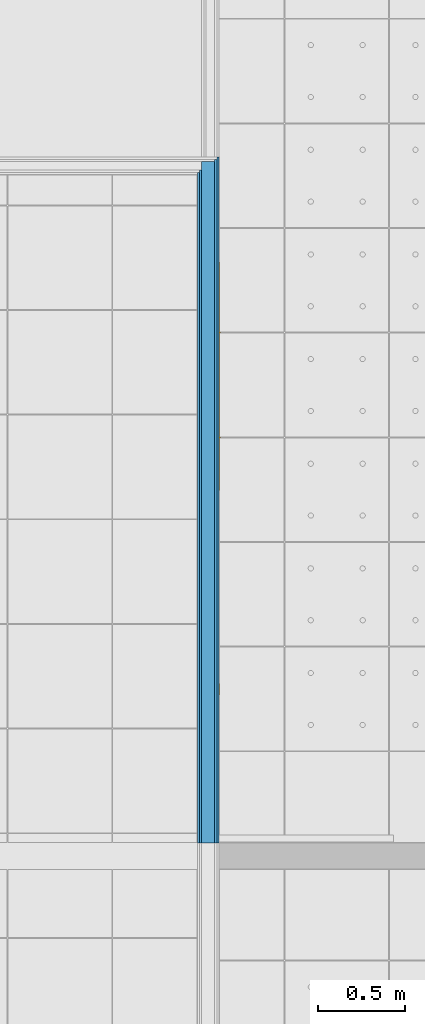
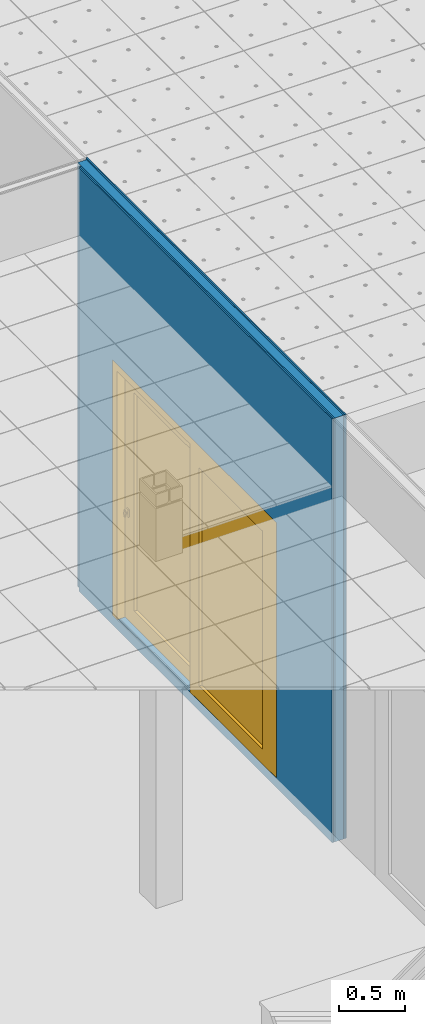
# One storey, part 18 of 321: 5 building element parts, 1 door, 1 opening, 1 element without a shape of its own.
"""IFC2X3 building model written with IfcOpenShell, lengths in millimetres."""

import ifcopenshell
import ifcopenshell.guid

model = None  # the IFC model being written
_history = None  # IfcOwnerHistory: only IFC2X3 demands one
_inside = {}  # id of a spatial element -> (the spatial element, [elements in it])
_under = {}  # id of a project, library or spatial element -> (it, [spatial elements below it])
_declared = {}  # id of a project -> (the project, [libraries it declares])
_typed = {}  # id of a type object -> (the type object, [elements of that type])
_made_of = {}  # id of a material, layer set ... -> (it, [elements and type objects made of it])


def new_model(schema):
    """Start an empty IFC model of exactly this schema.

    Asked for "IFC4X3", IfcOpenShell would pick the latest addendum, in which some entities
    have other attributes; the version numbers below select the first issue.
    IFC2X3 requires an IfcOwnerHistory on every rooted entity: one is made here for all.
    """
    global model, _history
    if schema == "IFC4X3":
        model = ifcopenshell.file(schema_version=(4, 3, 0, 0))
    else:
        model = ifcopenshell.file(schema=schema)
    _inside.clear()
    _under.clear()
    _declared.clear()
    _typed.clear()
    _made_of.clear()
    _history = None
    if model.schema == "IFC2X3":
        org = make("IfcOrganization", Name="unknown")
        user = make(
            "IfcPersonAndOrganization",
            ThePerson=make("IfcPerson", FamilyName="unknown"),
            TheOrganization=org,
        )
        app = make(
            "IfcApplication",
            ApplicationDeveloper=org,
            Version="unknown",
            ApplicationFullName="unknown",
            ApplicationIdentifier="unknown",
        )
        _history = make(
            "IfcOwnerHistory",
            OwningUser=user,
            OwningApplication=app,
            ChangeAction="ADDED",
            CreationDate=0,
        )
    return model


def make(cls, **values):
    """One entity of the class cls with the attributes given. An attribute that is None is left unset."""
    return model.create_entity(
        cls, **{name: value for name, value in values.items() if value is not None}
    )


def entity(cls, *values):
    """Any entity or typed value of the class cls, its attributes in the order of the schema. None: left unset."""
    e = model.create_entity(cls)
    for i, value in enumerate(values):
        if value is not None:
            e[i] = value
    return e


def rooted(cls, **values):
    """An entity with a GlobalId (a new one), such as an element, a storey or a relation."""
    return make(cls, GlobalId=ifcopenshell.guid.new(), OwnerHistory=_history, **values)


def si_unit(unit_type, name, prefix=None):
    """IfcSIUnit, for example si_unit("LENGTHUNIT", "METRE", prefix="MILLI")."""
    return make("IfcSIUnit", UnitType=unit_type, Prefix=prefix, Name=name)


def converted_unit(unit_type, name, factor, base, dimensions=None, offset=None):
    """IfcConversionBasedUnit, such as the inch: factor (a typed value) times the base unit."""
    return make(
        "IfcConversionBasedUnit"
        if offset is None
        else "IfcConversionBasedUnitWithOffset",
        ConversionOffset=offset,
        Dimensions=None
        if dimensions is None
        else entity("IfcDimensionalExponents", *dimensions),
        UnitType=unit_type,
        Name=name,
        ConversionFactor=make(
            "IfcMeasureWithUnit", ValueComponent=factor, UnitComponent=base
        ),
    )


def derived_unit(unit_type, elements):
    """IfcDerivedUnit: a product of units, each with its exponent."""
    return make(
        "IfcDerivedUnit",
        Elements=[
            make("IfcDerivedUnitElement", Unit=unit, Exponent=power)
            for unit, power in elements
        ],
        UnitType=unit_type,
    )


def money_unit(currency):
    """IfcMonetaryUnit."""
    return make("IfcMonetaryUnit", Currency=currency)


def assignment(units):
    """IfcUnitAssignment: the units of a project."""
    return None if units is None else make("IfcUnitAssignment", Units=units)


def point(xyz):
    """IfcCartesianPoint."""
    return None if xyz is None else make("IfcCartesianPoint", Coordinates=xyz)


def direction(xyz):
    """IfcDirection."""
    return None if xyz is None else make("IfcDirection", DirectionRatios=xyz)


def frame(location, z_axis=None, x_axis=None):
    """IfcAxis2Placement3D, a coordinate frame: its origin and axes. An axis left out is left unset."""
    return make(
        "IfcAxis2Placement3D",
        Location=point(location),
        Axis=direction(z_axis),
        RefDirection=direction(x_axis),
    )


def origin_with_axes():
    """The frame at (0, 0, 0) with the z axis (0, 0, 1) and the x axis (1, 0, 0) written out."""
    return frame((0.0, 0.0, 0.0), z_axis=(0.0, 0.0, 1.0), x_axis=(1.0, 0.0, 0.0))


def place(relative_to, where):
    """IfcLocalPlacement: puts the frame where relative to a parent placement (None: the world)."""
    return make(
        "IfcLocalPlacement", PlacementRelTo=relative_to, RelativePlacement=where
    )


def context(
    kind, dimensions, precision=None, world=None, true_north=None, identifier=None
):
    """IfcGeometricRepresentationContext, for example the 3D "Model" context."""
    return make(
        "IfcGeometricRepresentationContext",
        ContextIdentifier=identifier,
        ContextType=kind,
        CoordinateSpaceDimension=dimensions,
        Precision=precision,
        WorldCoordinateSystem=world,
        TrueNorth=true_north,
    )


def subcontext(parent, identifier, kind, view, scale=None):
    """IfcGeometricRepresentationSubContext, for example "Body" below "Model"."""
    return make(
        "IfcGeometricRepresentationSubContext",
        ContextIdentifier=identifier,
        ContextType=kind,
        ParentContext=parent,
        TargetScale=scale,
        TargetView=view,
    )


def project(units=None, contexts=None):
    """IfcProject with its units and contexts."""
    return rooted(
        "IfcProject",
        Name="project",
        RepresentationContexts=contexts,
        UnitsInContext=assignment(units),
    )


def spatial(cls, under=None, at=None, **own):
    """A site, building, storey or space (cls), placed at a placement, below another one or the project."""
    s = rooted(cls, ObjectPlacement=at, **own)
    if under is not None:
        _under.setdefault(under.id(), (under, []))[1].append(s)
    return s


def faces_of(points, faces, orient=None, outer=None):
    """IfcFace entities. A face is a list of loops; a loop is a list of indices into points, from 0.

    orient and outer hold one flag for each loop. By default every Orientation is true, the
    first loop of a face is its IfcFaceOuterBound and the others are IfcFaceBound.
    """
    made = []
    for i, loops in enumerate(faces):
        bounds = []
        for j, loop in enumerate(loops):
            is_outer = j == 0 if outer is None else outer[i][j]
            bounds.append(
                make(
                    "IfcFaceOuterBound" if is_outer else "IfcFaceBound",
                    Bound=make("IfcPolyLoop", Polygon=[points[k] for k in loop]),
                    Orientation=True if orient is None else orient[i][j],
                )
            )
        made.append(make("IfcFace", Bounds=bounds))
    return made


def open_shell(faces, orient=None, outer=None):
    """The faces of one IfcOpenShell. surface_model builds it on its shared points."""
    return ("IfcOpenShell", faces, orient, outer)


def faceted_brep(points, faces, orient=None, outer=None, voids=None):
    """IfcFacetedBrep: a solid bounded by flat faces; with voids (closed shells), ...WithVoids."""
    shared = [point(p) for p in points]
    hull = make("IfcClosedShell", CfsFaces=faces_of(shared, faces, orient, outer))
    if voids is None:
        return make("IfcFacetedBrep", Outer=hull)
    return make(
        "IfcFacetedBrepWithVoids",
        Outer=hull,
        Voids=[
            make(cls, CfsFaces=faces_of(shared, fs, o, b)) for cls, fs, o, b in voids
        ],
    )


def surface_model(cls, points, shells):
    """IfcFaceBasedSurfaceModel or IfcShellBasedSurfaceModel (cls): surfaces that need not close."""
    shared = [point(p) for p in points]
    made = [make(c, CfsFaces=faces_of(shared, fs, o, b)) for c, fs, o, b in shells]
    if cls == "IfcFaceBasedSurfaceModel":
        return make(cls, FbsmFaces=made)
    return make(cls, SbsmBoundary=made)


def shape(context_of_items, identifier, shape_type, items):
    """IfcShapeRepresentation: the items that make up one representation, for example the "Body"."""
    return make(
        "IfcShapeRepresentation",
        ContextOfItems=context_of_items,
        RepresentationIdentifier=identifier,
        RepresentationType=shape_type,
        Items=items,
    )


def source(mapping_origin, context_of_items, identifier, shape_type, items):
    """IfcRepresentationMap: a shape defined once, which mapped items show again and again."""
    return make(
        "IfcRepresentationMap",
        MappingOrigin=mapping_origin,
        MappedRepresentation=shape(context_of_items, identifier, shape_type, items),
    )


def transform(
    local_origin,
    x_axis=None,
    y_axis=None,
    z_axis=None,
    scale=None,
    scale2=None,
    scale3=None,
    uniform=True,
):
    """IfcCartesianTransformationOperator3D, or its non-uniform kind. x_axis, y_axis, z_axis: its Axis1, 2, 3."""
    if uniform:
        return make(
            "IfcCartesianTransformationOperator3D",
            Axis1=direction(x_axis),
            Axis2=direction(y_axis),
            LocalOrigin=point(local_origin),
            Scale=scale,
            Axis3=direction(z_axis),
        )
    return make(
        "IfcCartesianTransformationOperator3DnonUniform",
        Axis1=direction(x_axis),
        Axis2=direction(y_axis),
        LocalOrigin=point(local_origin),
        Scale=scale,
        Axis3=direction(z_axis),
        Scale2=scale2,
        Scale3=scale3,
    )


def mapped(mapping_source, mapping_target):
    """IfcMappedItem: shows the shape of a source again, moved by a transform."""
    return make(
        "IfcMappedItem", MappingSource=mapping_source, MappingTarget=mapping_target
    )


def material(Name=None, Category=None):
    """IfcMaterial."""
    return make("IfcMaterial", Name=Name, Category=Category)


def made_of(thing, what):
    """Note that an element or type object is made of a material, layer set ...; save() writes the relation."""
    if what is not None:
        _made_of.setdefault(what.id(), (what, []))[1].append(thing)
    return thing


def type_object(cls, material=None, **own):
    """A type object (cls), such as IfcWallType, which elements share."""
    return made_of(rooted(cls, **own), material)


def type_shapes(of_type, sources):
    """Give a type object the sources (RepresentationMaps) that its elements show as mapped items."""
    of_type.RepresentationMaps = sources


def element(
    cls,
    number,
    at=None,
    inside=None,
    cuts=None,
    type_object=None,
    material=None,
    context=None,
    identifier="Body",
    shape_type=None,
    held_by="IfcProductDefinitionShape",
    body=None,
    shapes=None,
    **own,
):
    """One element of the class cls, such as IfcWall. Its Tag is "e" and its number.

    at: its placement. inside: the storey or other place that contains it. cuts: it is an
    opening in that element (IfcRelVoidsElement). A single representation is given by context,
    identifier, shape_type and body (its items); several are given by shapes. held_by: the class
    of the entity that holds the representations. save() writes the other relations.
    """
    e = rooted(cls, Tag="e%d" % number, ObjectPlacement=at, **own)
    if body is not None:
        shapes = [shape(context, identifier, shape_type, body)]
    if shapes is not None:
        e.Representation = make(held_by, Representations=shapes)
    if inside is not None:
        _inside.setdefault(inside.id(), (inside, []))[1].append(e)
    if cuts is not None:
        rooted(
            "IfcRelVoidsElement", RelatingBuildingElement=cuts, RelatedOpeningElement=e
        )
    if type_object is not None:
        _typed.setdefault(type_object.id(), (type_object, []))[1].append(e)
    return made_of(e, material)


def fill(opening, filler):
    """IfcRelFillsElement: the door or window that sits in an opening."""
    return rooted(
        "IfcRelFillsElement",
        RelatingOpeningElement=opening,
        RelatedBuildingElement=filler,
    )


def aggregate(whole, parts):
    """IfcRelAggregates: a whole, such as a stair, and the parts it consists of."""
    return rooted("IfcRelAggregates", RelatingObject=whole, RelatedObjects=parts)


def save(model, path):
    """Write the relations noted so far, then the file.

    IfcRelAggregates (storeys below a building ...), IfcRelContainedInSpatialStructure (elements
    in a storey), IfcRelDefinesByType, IfcRelAssociatesMaterial and IfcRelDeclares: one each for
    every whole, place, type object, material and project.
    """
    for whole, parts in _under.values():
        aggregate(whole, parts)
    for where, things in _inside.values():
        rooted(
            "IfcRelContainedInSpatialStructure",
            RelatedElements=things,
            RelatingStructure=where,
        )
    for kind, things in _typed.values():
        rooted("IfcRelDefinesByType", RelatedObjects=things, RelatingType=kind)
    for what, things in _made_of.values():
        rooted("IfcRelAssociatesMaterial", RelatedObjects=things, RelatingMaterial=what)
    for by, libraries in _declared.values():
        rooted("IfcRelDeclares", RelatingContext=by, RelatedDefinitions=libraries)
    model.write(path)


model = new_model("IFC2X3")

# Units and contexts
model_context = context("Model", 3, precision=0.01, world=origin_with_axes(), true_north=direction((0.0, 1.0)))
plan_context = context("Plan", 3, precision=0.01, world=origin_with_axes(), true_north=direction((0.0, 1.0)))
body_context = subcontext(model_context, "Body", "Model", "MODEL_VIEW")
ifc_project = project(units=[si_unit("LENGTHUNIT", "METRE", prefix="MILLI"), si_unit("AREAUNIT", "SQUARE_METRE"), si_unit("VOLUMEUNIT", "CUBIC_METRE"), converted_unit("PLANEANGLEUNIT", "DEGREE", entity("IfcPlaneAngleMeasure", 0.0174532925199), si_unit("PLANEANGLEUNIT", "RADIAN"), dimensions=[0, 0, 0, 0, 0, 0, 0]), money_unit("EUR"), converted_unit("TIMEUNIT", "Year", entity("IfcTimeMeasure", 31556926.0), si_unit("TIMEUNIT", "SECOND"), dimensions=[0, 0, 1, 0, 0, 0, 0]), si_unit("MASSUNIT", "GRAM", prefix="KILO"), si_unit("THERMODYNAMICTEMPERATUREUNIT", "DEGREE_CELSIUS"), si_unit("LUMINOUSINTENSITYUNIT", "LUMEN"), si_unit("ENERGYUNIT", "JOULE", prefix="MEGA"), derived_unit("THERMALCONDUCTANCEUNIT", [(si_unit("POWERUNIT", "WATT"), 1), (si_unit("LENGTHUNIT", "METRE"), -1), (si_unit("THERMODYNAMICTEMPERATUREUNIT", "KELVIN"), -1)]), derived_unit("SPECIFICHEATCAPACITYUNIT", [(si_unit("ENERGYUNIT", "JOULE"), 1), (si_unit("MASSUNIT", "GRAM", prefix="KILO"), -1), (si_unit("THERMODYNAMICTEMPERATUREUNIT", "KELVIN"), -1)]), derived_unit("MASSDENSITYUNIT", [(si_unit("MASSUNIT", "GRAM", prefix="KILO"), 1), (si_unit("VOLUMEUNIT", "CUBIC_METRE"), -1)])], contexts=[model_context, plan_context])

# Site, building, storey
site_placement = place(None, origin_with_axes())
site = spatial("IfcSite", under=ifc_project, at=site_placement, Name="Fortuinstraat Woensdrecht", CompositionType="ELEMENT")
building_placement = place(site_placement, origin_with_axes())
building = spatial("IfcBuilding", under=site, at=building_placement, Name="IKC Fortuna", CompositionType="ELEMENT")
storey_placement = place(building_placement, frame((0.0, 0.0, 4000.0), z_axis=(0.0, 0.0, 1.0), x_axis=(1.0, 0.0, 0.0)))
storey = spatial("IfcBuildingStorey", under=building, at=storey_placement, Name="01 eerste verdieping", CompositionType="ELEMENT", Elevation=4000.0)

# Door
door_style = type_object("IfcDoorStyle", Name="DSn 25", ConstructionType="NOTDEFINED", OperationType="USERDEFINED", ParameterTakesPrecedence=False, Sizeable=False)
shared_shape = source(origin_with_axes(), body_context, "Body", "SurfaceModel", [
    faceted_brep([(1242.5, 0.0, 0.0), (1242.5, -139.0, 0.0), (1175.5, -139.0, 0.0), (1175.5, 0.0, 0.0), (1242.5, 0.0, 2300.0), (1242.5, -139.0, 2300.0), (1175.5, -139.0, 2300.0), (1175.5, 0.0, 2300.0)], [[[0, 1, 2, 3]], [[4, 5, 1, 0]], [[1, 5, 6, 2]], [[3, 2, 6, 7]], [[0, 3, 7, 4]], [[7, 6, 5, 4]]]),
    faceted_brep([(-1242.5, 0.0, 0.0), (-1242.5, -139.0, 0.0), (-1242.5, -139.0, 2300.0), (-1242.5, 0.0, 2300.0), (-1175.5, 0.0, 0.0), (-1175.5, -139.0, 0.0), (-1175.5, -139.0, 2300.0), (-1175.5, 0.0, 2300.0)], [[[0, 1, 2, 3]], [[4, 5, 1, 0]], [[1, 5, 6, 2]], [[3, 2, 6, 7]], [[0, 3, 7, 4]], [[7, 6, 5, 4]]]),
    faceted_brep([(1242.5, 0.0, 2367.0), (1242.5, -139.0, 2367.0), (1242.5, -139.0, 2300.0), (1242.5, 0.0, 2300.0), (-1242.5, 0.0, 2367.0), (-1242.5, -139.0, 2367.0), (-1242.5, -139.0, 2300.0), (-1175.5, -139.0, 2300.0), (1175.5, -139.0, 2300.0), (1175.5, 0.0, 2300.0), (-1175.5, 0.0, 2300.0), (-1242.5, 0.0, 2300.0)], [[[0, 1, 2, 3]], [[4, 5, 1, 0]], [[1, 5, 6, 7, 8, 2]], [[3, 2, 8, 9]], [[0, 3, 9, 10, 11, 4]], [[11, 6, 5, 4]], [[10, 7, 6, 11]], [[9, 8, 7, 10]]]),
    faceted_brep([(-1175.5, 0.0, 139.0), (-1036.5, 0.0, 139.0), (-1036.5, -64.5, 139.0), (-1175.5, -64.5, 139.0), (-1175.5, 0.0, 2161.0), (-1036.5, 0.0, 2161.0), (-1036.5, -64.5, 2161.0), (-1175.5, -64.5, 2161.0)], [[[0, 1, 2, 3]], [[0, 4, 5, 1]], [[1, 5, 6, 2]], [[3, 2, 6, 7]], [[4, 0, 3, 7]], [[5, 4, 7, 6]]]),
    faceted_brep([(69.5, 0.0, 139.0), (69.5, 0.0, 2161.0), (69.5, -64.5, 2161.0), (69.5, -64.5, 139.0), (-69.5, 0.0, 139.0), (-69.5, 0.0, 2161.0), (-69.5, -64.5, 2161.0), (-69.5, -64.5, 139.0)], [[[0, 1, 2, 3]], [[0, 4, 5, 1]], [[1, 5, 6, 2]], [[3, 2, 6, 7]], [[4, 0, 3, 7]], [[5, 4, 7, 6]]]),
    faceted_brep([(-1175.5, 0.0, 0.0), (69.5, 0.0, 0.0), (69.5, -64.5, 0.0), (-1175.5, -64.5, 0.0), (-1175.5, 0.0, 139.0), (-1036.5, 0.0, 139.0), (-69.5, 0.0, 139.0), (69.5, 0.0, 139.0), (69.5, -64.5, 139.0), (-69.5, -64.5, 139.0), (-1036.5, -64.5, 139.0), (-1175.5, -64.5, 139.0)], [[[0, 1, 2, 3]], [[0, 4, 5, 6, 7, 1]], [[1, 7, 8, 2]], [[3, 2, 8, 9, 10, 11]], [[4, 0, 3, 11]], [[5, 4, 11, 10]], [[6, 5, 10, 9]], [[7, 6, 9, 8]]]),
    faceted_brep([(-1175.5, 0.0, 2300.0), (-1175.5, 0.0, 2161.0), (-1175.5, -64.5, 2161.0), (-1175.5, -64.5, 2300.0), (69.5, 0.0, 2300.0), (69.5, 0.0, 2161.0), (-69.5, 0.0, 2161.0), (-1036.5, 0.0, 2161.0), (-1036.5, -64.5, 2161.0), (-69.5, -64.5, 2161.0), (69.5, -64.5, 2161.0), (69.5, -64.5, 2300.0)], [[[0, 1, 2, 3]], [[0, 4, 5, 6, 7, 1]], [[1, 7, 8, 2]], [[3, 2, 8, 9, 10, 11]], [[4, 0, 3, 11]], [[5, 4, 11, 10]], [[6, 5, 10, 9]], [[7, 6, 9, 8]]]),
    surface_model("IfcShellBasedSurfaceModel", [(-1036.5, -26.25, 139.0), (-1036.5, -26.25, 2161.0), (-69.5, -26.25, 2161.0), (-69.5, -26.25, 139.0)], [open_shell([[[0, 1, 2, 3]]])]),
    surface_model("IfcShellBasedSurfaceModel", [(-1036.5, -38.25, 139.0), (-69.5, -38.25, 139.0), (-69.5, -38.25, 2161.0), (-1036.5, -38.25, 2161.0)], [open_shell([[[0, 1, 2, 3]]])]),
    faceted_brep([(1110.5, -134.0, 965.0), (1110.5, -144.0, 965.0), (1110.5, -144.0, 1035.0), (1110.5, -134.0, 1035.0), (1140.5, -134.0, 965.0), (1140.5, -144.0, 965.0), (1140.5, -144.0, 1035.0), (1140.5, -134.0, 1035.0)], [[[0, 1, 2, 3]], [[4, 5, 1, 0]], [[1, 5, 6, 2]], [[3, 2, 6, 7]], [[0, 3, 7, 4]], [[7, 6, 5, 4]]]),
    faceted_brep([(1124.13436775, -144.0, 1006.86549696), (1125.5, -144.0, 1007.0), (1126.86563225, -144.0, 1006.86549696), (1128.17878403, -144.0, 1006.46715673), (1129.38899163, -144.0, 1005.82028729), (1130.44974747, -144.0, 1004.94974747), (1131.32028729, -144.0, 1003.88899163), (1131.96715673, -144.0, 1002.67878403), (1132.36549696, -144.0, 1001.36563225), (1132.5, -144.0, 1000.0), (1132.36549696, -144.0, 998.634367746), (1131.96715673, -144.0, 997.321215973), (1131.32028729, -144.0, 996.111008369), (1130.44974747, -144.0, 995.050252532), (1129.38899163, -144.0, 994.179712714), (1128.17878403, -144.0, 993.532843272), (1126.86563225, -144.0, 993.134503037), (1125.5, -144.0, 993.0), (1124.13436775, -144.0, 993.134503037), (1122.82121597, -144.0, 993.532843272), (1121.61100837, -144.0, 994.179712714), (1120.55025253, -144.0, 995.050252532), (1119.67971271, -144.0, 996.111008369), (1119.03284327, -144.0, 997.321215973), (1118.63450304, -144.0, 998.634367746), (1118.5, -144.0, 1000.0), (1118.63450304, -144.0, 1001.36563225), (1119.03284327, -144.0, 1002.67878403), (1119.67971271, -144.0, 1003.88899163), (1120.55025253, -144.0, 1004.94974747), (1121.61100837, -144.0, 1005.82028729), (1122.82121597, -144.0, 1006.46715673), (1124.13436775, -159.0, 1006.86549696), (1125.5, -159.0, 1007.0), (1126.86563225, -159.0, 1006.86549696), (1128.17878403, -159.0, 1006.46715673), (1129.38899163, -159.0, 1005.82028729), (1130.44974747, -159.0, 1004.94974747), (1131.32028729, -159.0, 1003.88899163), (1131.96715673, -159.0, 1002.67878403), (1132.36549696, -159.0, 1001.36563225), (1132.5, -159.0, 1000.0), (1132.36549696, -159.0, 998.634367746), (1131.96715673, -159.0, 997.321215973), (1131.32028729, -159.0, 996.111008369), (1130.44974747, -159.0, 995.050252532), (1129.38899163, -159.0, 994.179712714), (1128.17878403, -159.0, 993.532843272), (1126.86563225, -159.0, 993.134503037), (1125.5, -159.0, 993.0), (1124.13436775, -159.0, 993.134503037), (1122.82121597, -159.0, 993.532843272), (1121.61100837, -159.0, 994.179712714), (1120.55025253, -159.0, 995.050252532), (1119.67971271, -159.0, 996.111008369), (1119.03284327, -159.0, 997.321215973), (1118.63450304, -159.0, 998.634367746), (1118.5, -159.0, 1000.0), (1118.63450304, -159.0, 1001.36563225), (1119.03284327, -159.0, 1002.67878403), (1119.67971271, -159.0, 1003.88899163), (1120.55025253, -159.0, 1004.94974747), (1121.61100837, -159.0, 1005.82028729), (1122.82121597, -159.0, 1006.46715673)], [[[0, 1, 2, 3, 4, 5, 6, 7, 8, 9, 10, 11, 12, 13, 14, 15, 16, 17, 18, 19, 20, 21, 22, 23, 24, 25, 26, 27, 28, 29, 30, 31]], [[0, 32, 33, 1]], [[1, 33, 34, 2]], [[2, 34, 35, 3]], [[3, 35, 36, 4]], [[4, 36, 37, 5]], [[5, 37, 38, 6]], [[6, 38, 39, 7]], [[7, 39, 40, 8]], [[8, 40, 41, 9]], [[9, 41, 42, 10]], [[10, 42, 43, 11]], [[11, 43, 44, 12]], [[12, 44, 45, 13]], [[13, 45, 46, 14]], [[14, 46, 47, 15]], [[15, 47, 48, 16]], [[16, 48, 49, 17]], [[17, 49, 50, 18]], [[18, 50, 51, 19]], [[19, 51, 52, 20]], [[20, 52, 53, 21]], [[21, 53, 54, 22]], [[22, 54, 55, 23]], [[23, 55, 56, 24]], [[24, 56, 57, 25]], [[25, 57, 58, 26]], [[26, 58, 59, 27]], [[27, 59, 60, 28]], [[28, 60, 61, 29]], [[29, 61, 62, 30]], [[30, 62, 63, 31]], [[31, 63, 32, 0]], [[32, 63, 62, 61, 60, 59, 58, 57, 56, 55, 54, 53, 52, 51, 50, 49, 48, 47, 46, 45, 44, 43, 42, 41, 40, 39, 38, 37, 36, 35, 34, 33]]]),
    faceted_brep([(1115.5, -159.0, 990.0), (1115.5, -169.0, 990.0), (1115.5, -169.0, 1010.0), (1115.5, -159.0, 1010.0), (1135.5, -159.0, 990.0), (1135.5, -169.0, 990.0), (1135.5, -169.0, 1010.0), (1135.5, -159.0, 1010.0)], [[[0, 1, 2, 3]], [[4, 5, 1, 0]], [[1, 5, 6, 2]], [[3, 2, 6, 7]], [[0, 3, 7, 4]], [[7, 6, 5, 4]]]),
    faceted_brep([(1115.5, -169.0, 990.0), (1120.5, -167.0, 965.0), (1130.5, -167.0, 965.0), (1135.5, -169.0, 990.0), (1115.5, -159.0, 990.0), (1120.5, -163.0, 965.0), (1130.5, -163.0, 965.0), (1135.5, -159.0, 990.0)], [[[0, 1, 2, 3]], [[4, 5, 1, 0]], [[1, 5, 6, 2]], [[3, 2, 6, 7]], [[0, 3, 7, 4]], [[7, 6, 5, 4]]]),
    faceted_brep([(1115.5, -169.0, 1010.0), (1135.5, -169.0, 1010.0), (1130.5, -167.0, 1035.0), (1120.5, -167.0, 1035.0), (1115.5, -159.0, 1010.0), (1135.5, -159.0, 1010.0), (1130.5, -163.0, 1035.0), (1120.5, -163.0, 1035.0)], [[[0, 1, 2, 3]], [[0, 4, 5, 1]], [[1, 5, 6, 2]], [[3, 2, 6, 7]], [[4, 0, 3, 7]], [[5, 4, 7, 6]]]),
    faceted_brep([(1110.5, -69.5, 965.0), (1110.5, -69.5, 1035.0), (1110.5, -59.5, 1035.0), (1110.5, -59.5, 965.0), (1140.5, -69.5, 965.0), (1140.5, -69.5, 1035.0), (1140.5, -59.5, 1035.0), (1140.5, -59.5, 965.0)], [[[0, 1, 2, 3]], [[0, 4, 5, 1]], [[1, 5, 6, 2]], [[3, 2, 6, 7]], [[4, 0, 3, 7]], [[5, 4, 7, 6]]]),
    faceted_brep([(1124.13436775, -59.5, 1006.86549696), (1122.82121597, -59.5, 1006.46715673), (1121.61100837, -59.5, 1005.82028729), (1120.55025253, -59.5, 1004.94974747), (1119.67971271, -59.5, 1003.88899163), (1119.03284327, -59.5, 1002.67878403), (1118.63450304, -59.5, 1001.36563225), (1118.5, -59.5, 1000.0), (1118.63450304, -59.5, 998.634367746), (1119.03284327, -59.5, 997.321215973), (1119.67971271, -59.5, 996.111008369), (1120.55025253, -59.5, 995.050252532), (1121.61100837, -59.5, 994.179712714), (1122.82121597, -59.5, 993.532843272), (1124.13436775, -59.5, 993.134503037), (1125.5, -59.5, 993.0), (1126.86563225, -59.5, 993.134503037), (1128.17878403, -59.5, 993.532843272), (1129.38899163, -59.5, 994.179712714), (1130.44974747, -59.5, 995.050252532), (1131.32028729, -59.5, 996.111008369), (1131.96715673, -59.5, 997.321215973), (1132.36549696, -59.5, 998.634367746), (1132.5, -59.5, 1000.0), (1132.36549696, -59.5, 1001.36563225), (1131.96715673, -59.5, 1002.67878403), (1131.32028729, -59.5, 1003.88899163), (1130.44974747, -59.5, 1004.94974747), (1129.38899163, -59.5, 1005.82028729), (1128.17878403, -59.5, 1006.46715673), (1126.86563225, -59.5, 1006.86549696), (1125.5, -59.5, 1007.0), (1124.13436775, -44.5, 1006.86549696), (1122.82121597, -44.5, 1006.46715673), (1121.61100837, -44.5, 1005.82028729), (1120.55025253, -44.5, 1004.94974747), (1119.67971271, -44.5, 1003.88899163), (1119.03284327, -44.5, 1002.67878403), (1118.63450304, -44.5, 1001.36563225), (1118.5, -44.5, 1000.0), (1118.63450304, -44.5, 998.634367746), (1119.03284327, -44.5, 997.321215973), (1119.67971271, -44.5, 996.111008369), (1120.55025253, -44.5, 995.050252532), (1121.61100837, -44.5, 994.179712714), (1122.82121597, -44.5, 993.532843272), (1124.13436775, -44.5, 993.134503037), (1125.5, -44.5, 993.0), (1126.86563225, -44.5, 993.134503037), (1128.17878403, -44.5, 993.532843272), (1129.38899163, -44.5, 994.179712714), (1130.44974747, -44.5, 995.050252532), (1131.32028729, -44.5, 996.111008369), (1131.96715673, -44.5, 997.321215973), (1132.36549696, -44.5, 998.634367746), (1132.5, -44.5, 1000.0), (1132.36549696, -44.5, 1001.36563225), (1131.96715673, -44.5, 1002.67878403), (1131.32028729, -44.5, 1003.88899163), (1130.44974747, -44.5, 1004.94974747), (1129.38899163, -44.5, 1005.82028729), (1128.17878403, -44.5, 1006.46715673), (1126.86563225, -44.5, 1006.86549696), (1125.5, -44.5, 1007.0)], [[[0, 1, 2, 3, 4, 5, 6, 7, 8, 9, 10, 11, 12, 13, 14, 15, 16, 17, 18, 19, 20, 21, 22, 23, 24, 25, 26, 27, 28, 29, 30, 31]], [[1, 0, 32, 33]], [[2, 1, 33, 34]], [[3, 2, 34, 35]], [[4, 3, 35, 36]], [[5, 4, 36, 37]], [[6, 5, 37, 38]], [[7, 6, 38, 39]], [[8, 7, 39, 40]], [[9, 8, 40, 41]], [[10, 9, 41, 42]], [[11, 10, 42, 43]], [[12, 11, 43, 44]], [[13, 12, 44, 45]], [[14, 13, 45, 46]], [[15, 14, 46, 47]], [[16, 15, 47, 48]], [[17, 16, 48, 49]], [[18, 17, 49, 50]], [[19, 18, 50, 51]], [[20, 19, 51, 52]], [[21, 20, 52, 53]], [[22, 21, 53, 54]], [[23, 22, 54, 55]], [[24, 23, 55, 56]], [[25, 24, 56, 57]], [[26, 25, 57, 58]], [[27, 26, 58, 59]], [[28, 27, 59, 60]], [[29, 28, 60, 61]], [[30, 29, 61, 62]], [[31, 30, 62, 63]], [[0, 31, 63, 32]], [[32, 63, 62, 61, 60, 59, 58, 57, 56, 55, 54, 53, 52, 51, 50, 49, 48, 47, 46, 45, 44, 43, 42, 41, 40, 39, 38, 37, 36, 35, 34, 33]]]),
    faceted_brep([(1115.5, -44.5, 990.0), (1115.5, -44.5, 1010.0), (1115.5, -34.5, 1010.0), (1115.5, -34.5, 990.0), (1135.5, -44.5, 990.0), (1135.5, -44.5, 1010.0), (1135.5, -34.5, 1010.0), (1135.5, -34.5, 990.0)], [[[0, 1, 2, 3]], [[0, 4, 5, 1]], [[1, 5, 6, 2]], [[3, 2, 6, 7]], [[4, 0, 3, 7]], [[5, 4, 7, 6]]]),
    faceted_brep([(1115.5, -34.5, 990.0), (1135.5, -34.5, 990.0), (1130.5, -36.5, 965.0), (1120.5, -36.5, 965.0), (1115.5, -44.5, 990.0), (1135.5, -44.5, 990.0), (1130.5, -40.5, 965.0), (1120.5, -40.5, 965.0)], [[[0, 1, 2, 3]], [[0, 4, 5, 1]], [[1, 5, 6, 2]], [[3, 2, 6, 7]], [[4, 0, 3, 7]], [[5, 4, 7, 6]]]),
    faceted_brep([(1115.5, -34.5, 1010.0), (1120.5, -36.5, 1035.0), (1130.5, -36.5, 1035.0), (1135.5, -34.5, 1010.0), (1115.5, -44.5, 1010.0), (1120.5, -40.5, 1035.0), (1130.5, -40.5, 1035.0), (1135.5, -44.5, 1010.0)], [[[0, 1, 2, 3]], [[4, 5, 1, 0]], [[1, 5, 6, 2]], [[3, 2, 6, 7]], [[0, 3, 7, 4]], [[7, 6, 5, 4]]]),
    faceted_brep([(-69.5, -69.5, 139.0), (69.5, -69.5, 139.0), (69.5, -134.0, 139.0), (-69.5, -134.0, 139.0), (-69.5, -69.5, 2161.0), (69.5, -69.5, 2161.0), (69.5, -134.0, 2161.0), (-69.5, -134.0, 2161.0)], [[[0, 1, 2, 3]], [[0, 4, 5, 1]], [[1, 5, 6, 2]], [[3, 2, 6, 7]], [[4, 0, 3, 7]], [[5, 4, 7, 6]]]),
    faceted_brep([(1175.5, -69.5, 139.0), (1175.5, -69.5, 2161.0), (1175.5, -134.0, 2161.0), (1175.5, -134.0, 139.0), (1036.5, -69.5, 139.0), (1036.5, -69.5, 2161.0), (1036.5, -134.0, 2161.0), (1036.5, -134.0, 139.0)], [[[0, 1, 2, 3]], [[0, 4, 5, 1]], [[1, 5, 6, 2]], [[3, 2, 6, 7]], [[4, 0, 3, 7]], [[5, 4, 7, 6]]]),
    faceted_brep([(-69.5, -69.5, 0.0), (1175.5, -69.5, 0.0), (1175.5, -134.0, 0.0), (-69.5, -134.0, 0.0), (-69.5, -69.5, 139.0), (69.5, -69.5, 139.0), (1036.5, -69.5, 139.0), (1175.5, -69.5, 139.0), (1175.5, -134.0, 139.0), (1036.5, -134.0, 139.0), (69.5, -134.0, 139.0), (-69.5, -134.0, 139.0)], [[[0, 1, 2, 3]], [[0, 4, 5, 6, 7, 1]], [[1, 7, 8, 2]], [[3, 2, 8, 9, 10, 11]], [[4, 0, 3, 11]], [[5, 4, 11, 10]], [[6, 5, 10, 9]], [[7, 6, 9, 8]]]),
    faceted_brep([(-69.5, -69.5, 2300.0), (-69.5, -69.5, 2161.0), (-69.5, -134.0, 2161.0), (-69.5, -134.0, 2300.0), (1175.5, -69.5, 2300.0), (1175.5, -69.5, 2161.0), (1036.5, -69.5, 2161.0), (69.5, -69.5, 2161.0), (69.5, -134.0, 2161.0), (1036.5, -134.0, 2161.0), (1175.5, -134.0, 2161.0), (1175.5, -134.0, 2300.0)], [[[0, 1, 2, 3]], [[0, 4, 5, 6, 7, 1]], [[1, 7, 8, 2]], [[3, 2, 8, 9, 10, 11]], [[4, 0, 3, 11]], [[5, 4, 11, 10]], [[6, 5, 10, 9]], [[7, 6, 9, 8]]]),
    surface_model("IfcShellBasedSurfaceModel", [(69.5, -95.75, 139.0), (69.5, -95.75, 2161.0), (1036.5, -95.75, 2161.0), (1036.5, -95.75, 139.0)], [open_shell([[[0, 1, 2, 3]]])]),
    surface_model("IfcShellBasedSurfaceModel", [(69.5, -107.75, 139.0), (1036.5, -107.75, 139.0), (1036.5, -107.75, 2161.0), (69.5, -107.75, 2161.0)], [open_shell([[[0, 1, 2, 3]]])]),
])
type_shapes(door_style, [shared_shape])
wall_placement = place(storey_placement, frame((27219.9875502, 9785.10705764, -90.0), z_axis=(0.0, 0.0, 1.0), x_axis=(0.0, 1.0, 0.0)))
opening_placement = place(wall_placement, frame((2089.13610907, 0.0, 90.0), z_axis=(0.0, 0.0, 1.0), x_axis=(1.0, 0.0, 0.0)))
door_placement = place(opening_placement, frame((-1242.5, 0.0, 0.0), z_axis=(0.0, 0.0, 1.0), x_axis=(1.0, 0.0, 0.0)))
door = element("IfcDoor", 1, at=door_placement, inside=storey, type_object=door_style, Name="32_Deur_h.03", ObjectType="DOOR", OverallHeight=2367.0, OverallWidth=2485.0, context=body_context, shape_type="MappedRepresentation", body=[
    mapped(shared_shape, transform((1242.5, 62.5, 0.0))),
])

# Wall, opening
wall_type = type_object("IfcWallType", Name="MS125 2.75.2A 125", PredefinedType="NOTDEFINED")
wall = element("IfcWall", 2, at=wall_placement, inside=storey, type_object=wall_type, Name="22_Wand_Binnenwand")
opening = element("IfcOpeningElement", 3, at=opening_placement, cuts=wall, Name="32_Deur_h.03", context=body_context, shape_type="Brep", body=[
    faceted_brep([(-1242.5, 250.0, 2367.0), (-1242.5, 250.0, 0.0), (-1242.5, -125.0, 0.0), (-1242.5, -125.0, 2367.0), (1242.5, 250.0, 2367.0), (1242.5, 250.0, 0.0), (1242.5, -125.0, 0.0), (1242.5, -125.0, 2367.0)], [[[0, 1, 2, 3]], [[0, 4, 5, 1]], [[1, 5, 6, 2]], [[3, 2, 6, 7]], [[4, 0, 3, 7]], [[5, 4, 7, 6]]]),
])

fill(opening, door)

# Building element part
ifc_material_1 = material(Name="Gipsplaat")
building_element_part_1_placement = place(wall_placement, origin_with_axes())
building_element_part_1 = element("IfcBuildingElementPart", 4, at=building_element_part_1_placement, material=ifc_material_1, Name="Gipsplaat", context=body_context, shape_type="Brep", body=[
    faceted_brep([(0.0, 62.5, 0.0), (0.0, 62.5, 3930.0), (3844.13498005, 62.5, 3930.0), (3844.13498005, 62.5, 0.0), (846.636109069, 62.5, 90.0), (3331.63610907, 62.5, 90.0), (3331.63610907, 62.5, 2457.0), (846.636109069, 62.5, 2457.0), (0.0, 50.0, 0.0), (0.0, 50.0, 3930.0), (3844.13498005, 50.0, 3930.0), (3844.13498005, 50.0, 0.0), (846.636109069, 50.0, 90.0), (3331.63610907, 50.0, 90.0), (3331.63610907, 50.0, 2457.0), (846.636109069, 50.0, 2457.0)], [[[0, 1, 2, 3], [4, 5, 6, 7]], [[1, 0, 8, 9]], [[1, 9, 10, 2]], [[11, 3, 2, 10]], [[8, 0, 3, 11]], [[12, 13, 5, 4]], [[13, 14, 6, 5]], [[14, 15, 7, 6]], [[15, 12, 4, 7]], [[9, 8, 11, 10], [12, 15, 14, 13]]]),
])

building_element_part_2_placement = place(wall_placement, origin_with_axes())
building_element_part_2 = element("IfcBuildingElementPart", 5, at=building_element_part_2_placement, material=ifc_material_1, Name="Gipsplaat", context=body_context, shape_type="Brep", body=[
    faceted_brep([(0.0, 50.0, 0.0), (0.0, 50.0, 3930.0), (3856.63498005, 50.0, 3930.0), (3856.63498005, 50.0, 0.0), (846.636109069, 50.0, 90.0), (3331.63610907, 50.0, 90.0), (3331.63610907, 50.0, 2457.0), (846.636109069, 50.0, 2457.0), (0.0, 37.5, 0.0), (0.0, 37.5, 3930.0), (3856.63498005, 37.5, 3930.0), (3856.63498005, 37.5, 0.0), (846.636109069, 37.5, 90.0), (3331.63610907, 37.5, 90.0), (3331.63610907, 37.5, 2457.0), (846.636109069, 37.5, 2457.0)], [[[0, 1, 2, 3], [4, 5, 6, 7]], [[1, 0, 8, 9]], [[1, 9, 10, 2]], [[11, 3, 2, 10]], [[8, 0, 3, 11]], [[12, 13, 5, 4]], [[13, 14, 6, 5]], [[14, 15, 7, 6]], [[15, 12, 4, 7]], [[9, 8, 11, 10], [12, 15, 14, 13]]]),
])

ifc_material_2 = material(Name="Isolatie - Steenwol LSW")
building_element_part_3_placement = place(wall_placement, origin_with_axes())
building_element_part_3 = element("IfcBuildingElementPart", 6, at=building_element_part_3_placement, material=ifc_material_2, Name="Isolatie - Steenwol LSW", context=body_context, shape_type="Brep", body=[
    faceted_brep([(0.0, 37.5, 0.0), (0.0, 37.5, 3930.0), (3906.63498005, 37.5, 3930.0), (3906.63498005, 37.5, 0.0), (846.636109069, 37.5, 90.0), (3331.63610907, 37.5, 90.0), (3331.63610907, 37.5, 2457.0), (846.636109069, 37.5, 2457.0), (0.0, -37.5, 0.0), (0.0, -37.5, 3930.0), (3906.63498005, -37.5, 3930.0), (3906.63498005, -37.5, 0.0), (846.636109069, -37.5, 90.0), (3331.63610907, -37.5, 90.0), (3331.63610907, -37.5, 2457.0), (846.636109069, -37.5, 2457.0)], [[[0, 1, 2, 3], [4, 5, 6, 7]], [[1, 0, 8, 9]], [[1, 9, 10, 2]], [[11, 3, 2, 10]], [[8, 0, 3, 11]], [[12, 13, 5, 4]], [[13, 14, 6, 5]], [[14, 15, 7, 6]], [[15, 12, 4, 7]], [[9, 8, 11, 10], [12, 15, 14, 13]]]),
])

building_element_part_4_placement = place(wall_placement, origin_with_axes())
building_element_part_4 = element("IfcBuildingElementPart", 7, at=building_element_part_4_placement, material=ifc_material_1, Name="Gipsplaat", context=body_context, shape_type="Brep", body=[
    faceted_brep([(0.0, -37.5, 0.0), (0.0, -37.5, 3930.0), (3919.13498005, -37.5, 3930.0), (3919.13498005, -37.5, 0.0), (846.636109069, -37.5, 90.0), (3331.63610907, -37.5, 90.0), (3331.63610907, -37.5, 2457.0), (846.636109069, -37.5, 2457.0), (0.0, -50.0, 0.0), (0.0, -50.0, 3930.0), (3919.13498005, -50.0, 3930.0), (3919.13498005, -50.0, 0.0), (846.636109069, -50.0, 90.0), (3331.63610907, -50.0, 90.0), (3331.63610907, -50.0, 2457.0), (846.636109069, -50.0, 2457.0)], [[[0, 1, 2, 3], [4, 5, 6, 7]], [[1, 0, 8, 9]], [[1, 9, 10, 2]], [[11, 3, 2, 10]], [[8, 0, 3, 11]], [[12, 13, 5, 4]], [[13, 14, 6, 5]], [[14, 15, 7, 6]], [[15, 12, 4, 7]], [[9, 8, 11, 10], [12, 15, 14, 13]]]),
])

building_element_part_5_placement = place(wall_placement, origin_with_axes())
building_element_part_5 = element("IfcBuildingElementPart", 8, at=building_element_part_5_placement, material=ifc_material_1, Name="Gipsplaat", context=body_context, shape_type="Brep", body=[
    faceted_brep([(0.0, -50.0, 0.0), (0.0, -50.0, 3930.0), (3931.63498005, -50.0, 3930.0), (3931.63498005, -50.0, 0.0), (846.636109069, -50.0, 90.0), (3331.63610907, -50.0, 90.0), (3331.63610907, -50.0, 2457.0), (846.636109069, -50.0, 2457.0), (0.0, -62.5, 0.0), (0.0, -62.5, 3930.0), (3931.63498005, -62.5, 3930.0), (3931.63498005, -62.5, 0.0), (846.636109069, -62.5, 90.0), (3331.63610907, -62.5, 90.0), (3331.63610907, -62.5, 2457.0), (846.636109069, -62.5, 2457.0)], [[[0, 1, 2, 3], [4, 5, 6, 7]], [[1, 0, 8, 9]], [[1, 9, 10, 2]], [[11, 3, 2, 10]], [[8, 0, 3, 11]], [[12, 13, 5, 4]], [[13, 14, 6, 5]], [[14, 15, 7, 6]], [[15, 12, 4, 7]], [[9, 8, 11, 10], [12, 15, 14, 13]]]),
])

aggregate(wall, [building_element_part_1, building_element_part_2, building_element_part_3, building_element_part_4, building_element_part_5])

save(model, "model.ifc")
